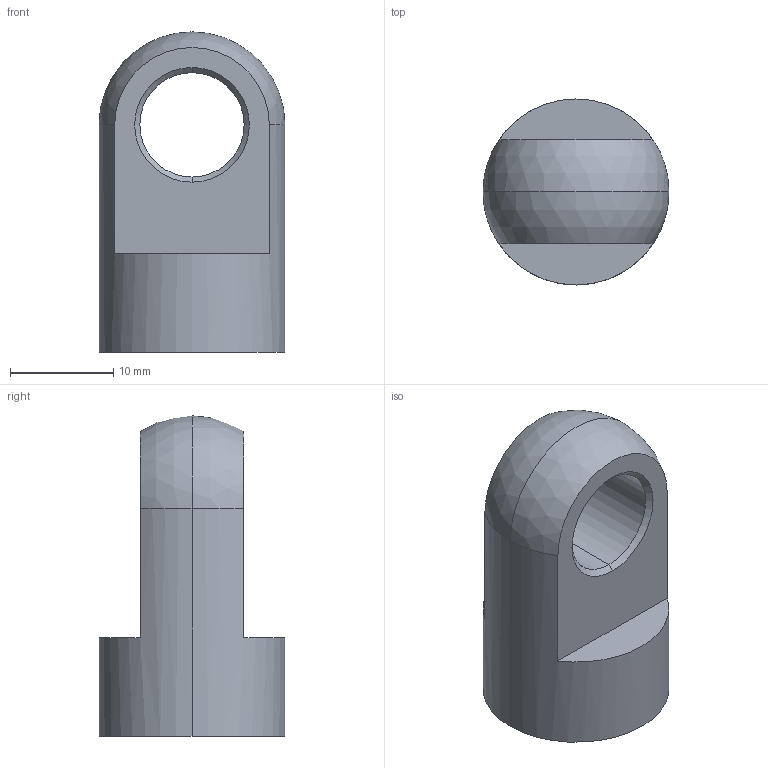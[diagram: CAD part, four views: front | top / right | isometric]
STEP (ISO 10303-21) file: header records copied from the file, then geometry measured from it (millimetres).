
FILE_DESCRIPTION (( 'STEP AP203' ), '1' );
FILE_NAME ('18.08A1L22T10.STEP', '2017-10-21T12:24:16', ( '' ), ( '' ), 'SwSTEP 2.0', 'SolidWorks 2016', '' );
FILE_SCHEMA (( 'CONFIG_CONTROL_DESIGN' ));
Length unit declared in the file: millimetre
Products named in the file (1): 18.08A1L22T10
Bounding box: 18 x 18 x 31 mm (x, y, z)
Volume: 4414.4 mm3; surface area: 2369.4 mm2
Topology: 1 solids, 1 shells, 21 faces, 48 edges, 28 vertices
Faces by surface type: cone 8, cylinder 6, plane 5, sphere 2
Entity records: 663 total; most frequent: DIRECTION 116, CARTESIAN_POINT 96, ORIENTED_EDGE 92, AXIS2_PLACEMENT_3D 48, EDGE_CURVE 46, VERTEX_POINT 28, CIRCLE 26, EDGE_LOOP 24
